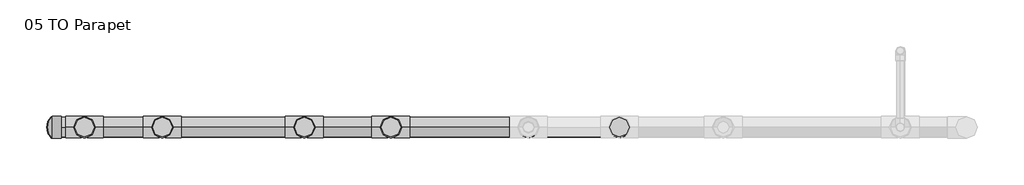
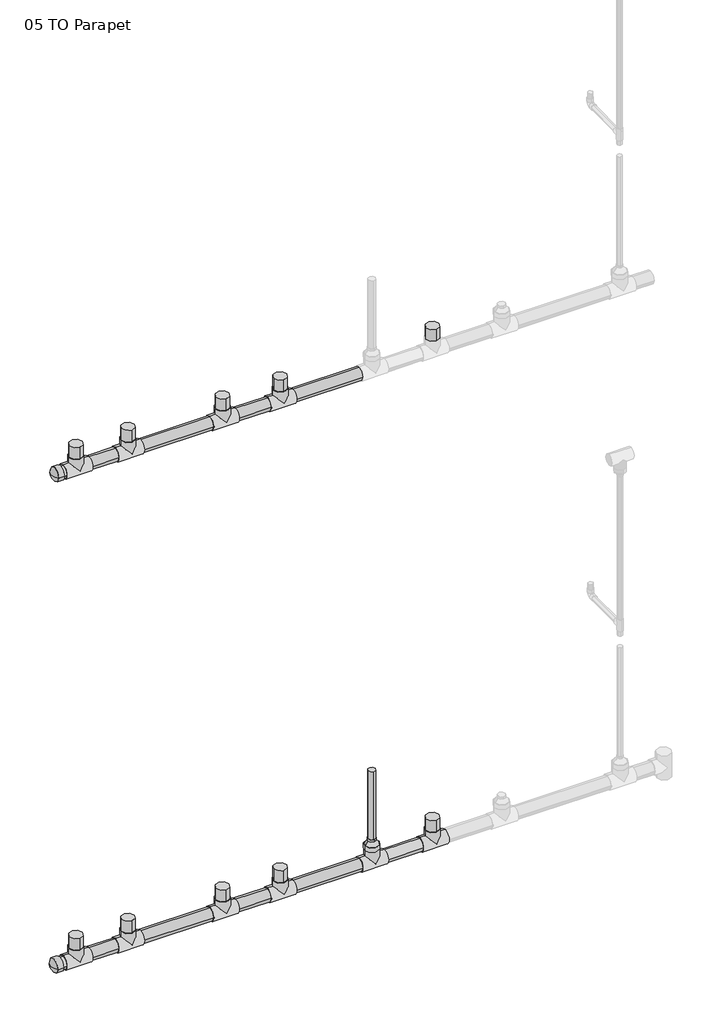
# One storey, part 1 of 2: 22 pipe segments, 13 pipe fittings.
"""IFC4 building model written with IfcOpenShell, lengths in millimetres."""

from ifc_helpers import new_model, si_unit, point, frame, frame_2d, origin, place, context, project, spatial, circle_curve, trimmed, segment, composite_curve, outline, extrude, transform, mapped, element, save
from components import cap_pvc_sch_40_standard_fd01d818, reducer_pvc_sch_40_dwv_standard_07db09cb, tee_pvc_sch_40_standard_5c3f4d2b

model = new_model("IFC4")

# Units and contexts
model_context = context("Model", 3, world=origin())
ifc_project = project(units=[si_unit("LENGTHUNIT", "METRE", prefix="MILLI")], contexts=[model_context])

# Site, building, storey
site = spatial("IfcSite", under=ifc_project)
building = spatial("IfcBuilding", under=site)
storey = spatial("IfcBuildingStorey", under=building, Name="05 TO Parapet", Elevation=15240.0)

# Pipe fittings
placement = place(None, origin())
cap_pvc_sch_40_standard_shape = cap_pvc_sch_40_standard_fd01d818(model_context)
element("IfcPipeFitting", 1, ObjectType="Cap - PVC - Sch 40 : Standard", at=placement, inside=storey, context=model_context, shape_type="MappedRepresentation", body=[
    mapped(cap_pvc_sch_40_standard_shape, transform((-17561.5436686, -4439.7857603, 3739.8806513), x_axis=(-1.0, 0.0, 0.0), y_axis=(0.0, -1.0, 0.0), z_axis=(0.0, 0.0, 1.0))),
])
element("IfcPipeFitting", 2, ObjectType="Cap - PVC - Sch 40 : Standard", at=placement, inside=storey, context=model_context, shape_type="MappedRepresentation", body=[
    mapped(cap_pvc_sch_40_standard_shape, transform((-17555.1936686, -4439.7857603, 8311.8806513), x_axis=(-1.0, 0.0, 0.0), y_axis=(0.0, -1.0, 0.0), z_axis=(0.0, 0.0, 1.0))),
])
reducer_pvc_sch_40_dwv_standard_shape = reducer_pvc_sch_40_dwv_standard_07db09cb(model_context)
element("IfcPipeFitting", 3, ObjectType="Reducer - PVC - Sch 40 - DWV : Standard", at=placement, inside=storey, context=model_context, shape_type="MappedRepresentation", body=[
    mapped(reducer_pvc_sch_40_dwv_standard_shape, transform((-14812.7542617, -4439.7857603, 3851.0056513), x_axis=(0.0, 0.0, 1.0), y_axis=(1.0, 0.0, 0.0), z_axis=(0.0, 1.0, 0.0))),
])
tee_pvc_sch_40_standard_shape = tee_pvc_sch_40_standard_5c3f4d2b(model_context)
element("IfcPipeFitting", 4, ObjectType="Tee - PVC - Sch 40 : Standard", at=placement, inside=storey, context=model_context, shape_type="MappedRepresentation", body=[
    mapped(tee_pvc_sch_40_standard_shape, transform((-17418.6686686, -4439.7857603, 3739.8806513), x_axis=(-1.0, 0.0, 0.0), y_axis=(0.0, 0.0, -1.0), z_axis=(0.0, -1.0, 0.0))),
])
element("IfcPipeFitting", 5, ObjectType="Tee - PVC - Sch 40 : Standard", at=placement, inside=storey, context=model_context, shape_type="MappedRepresentation", body=[
    mapped(tee_pvc_sch_40_standard_shape, transform((-16128.0974824, -4439.7857603, 3739.8806513), x_axis=(-1.0, 0.0, 0.0), y_axis=(0.0, 0.0, -1.0), z_axis=(0.0, -1.0, 0.0))),
])
element("IfcPipeFitting", 6, ObjectType="Tee - PVC - Sch 40 : Standard", at=placement, inside=storey, context=model_context, shape_type="MappedRepresentation", body=[
    mapped(tee_pvc_sch_40_standard_shape, transform((-16961.4686686, -4439.7857603, 3739.8806513), x_axis=(-1.0, 0.0, 0.0), y_axis=(0.0, 0.0, -1.0), z_axis=(0.0, -1.0, 0.0))),
])
element("IfcPipeFitting", 7, ObjectType="Tee - PVC - Sch 40 : Standard", at=placement, inside=storey, context=model_context, shape_type="MappedRepresentation", body=[
    mapped(tee_pvc_sch_40_standard_shape, transform((-15620.0974824, -4439.7857603, 3739.8806513), x_axis=(-1.0, 0.0, 0.0), y_axis=(0.0, 0.0, -1.0), z_axis=(0.0, -1.0, 0.0))),
])
element("IfcPipeFitting", 8, ObjectType="Tee - PVC - Sch 40 : Standard", at=placement, inside=storey, context=model_context, shape_type="MappedRepresentation", body=[
    mapped(tee_pvc_sch_40_standard_shape, transform((-14278.7262962, -4439.7857603, 3739.8806513), x_axis=(-1.0, 0.0, 0.0), y_axis=(0.0, 0.0, -1.0), z_axis=(0.0, -1.0, 0.0))),
])
element("IfcPipeFitting", 9, ObjectType="Tee - PVC - Sch 40 : Standard", at=placement, inside=storey, context=model_context, shape_type="MappedRepresentation", body=[
    mapped(tee_pvc_sch_40_standard_shape, transform((-14812.7542617, -4439.7857603, 3739.8806513), x_axis=(-1.0, 0.0, 0.0), y_axis=(0.0, 0.0, -1.0), z_axis=(0.0, -1.0, 0.0))),
])
element("IfcPipeFitting", 10, ObjectType="Tee - PVC - Sch 40 : Standard", at=placement, inside=storey, context=model_context, shape_type="MappedRepresentation", body=[
    mapped(tee_pvc_sch_40_standard_shape, transform((-17418.6686686, -4439.7857603, 8311.8806513), x_axis=(-1.0, 0.0, 0.0), y_axis=(0.0, 0.0, -1.0), z_axis=(0.0, -1.0, 0.0))),
])
element("IfcPipeFitting", 11, ObjectType="Tee - PVC - Sch 40 : Standard", at=placement, inside=storey, context=model_context, shape_type="MappedRepresentation", body=[
    mapped(tee_pvc_sch_40_standard_shape, transform((-16128.0974824, -4439.7857603, 8311.8806513), x_axis=(-1.0, 0.0, 0.0), y_axis=(0.0, 0.0, -1.0), z_axis=(0.0, -1.0, 0.0))),
])
element("IfcPipeFitting", 12, ObjectType="Tee - PVC - Sch 40 : Standard", at=placement, inside=storey, context=model_context, shape_type="MappedRepresentation", body=[
    mapped(tee_pvc_sch_40_standard_shape, transform((-16961.4686686, -4439.7857603, 8311.8806513), x_axis=(-1.0, 0.0, 0.0), y_axis=(0.0, 0.0, -1.0), z_axis=(0.0, -1.0, 0.0))),
])
element("IfcPipeFitting", 13, ObjectType="Tee - PVC - Sch 40 : Standard", at=placement, inside=storey, context=model_context, shape_type="MappedRepresentation", body=[
    mapped(tee_pvc_sch_40_standard_shape, transform((-15620.0974824, -4439.7857603, 8311.8806513), x_axis=(-1.0, 0.0, 0.0), y_axis=(0.0, 0.0, -1.0), z_axis=(0.0, -1.0, 0.0))),
])

# Pipe segments
element("IfcPipeSegment", 14, ObjectType="Standard", at=placement, inside=storey, context=model_context, shape_type="SweptSolid", body=[
    extrude(outline(composite_curve([segment(trimmed(circle_curve(frame_2d((-17418.6686686, -4439.7857603)), 57.15), [point((-17475.8186686, -4439.7857603))], [point((-17418.6686686, -4382.6357603))], False, "CARTESIAN"), True, "CONTINUOUS"), segment(trimmed(circle_curve(frame_2d((-17418.6686686, -4439.7857603)), 57.15), [point((-17418.6686686, -4382.6357603))], [point((-17361.5186686, -4439.7857603))], False, "CARTESIAN"), True, "CONTINUOUS"), segment(trimmed(circle_curve(frame_2d((-17418.6686686, -4439.7857603)), 57.15), [point((-17361.5186686, -4439.7857603))], [point((-17418.6686686, -4496.9357603))], False, "CARTESIAN"), True, "CONTINUOUS"), segment(trimmed(circle_curve(frame_2d((-17418.6686686, -4439.7857603)), 57.15), [point((-17418.6686686, -4496.9357603))], [point((-17475.8186686, -4439.7857603))], False, "CARTESIAN"), True, "CONTINUOUS")], self_intersect=False)), frame((0.0, 0.0, 3851.0056513), z_axis=(0.0, 0.0, 1.0), x_axis=(1.0, 0.0, 0.0)), (0.0, 0.0, 1.0), 109.5106552),
])
element("IfcPipeSegment", 15, ObjectType="Standard", at=placement, inside=storey, context=model_context, shape_type="SweptSolid", body=[
    extrude(outline(composite_curve([segment(trimmed(circle_curve(frame_2d((0.0, -57.15)), 57.15), [point((-57.15, -57.15))], [point((0.0, 0.0))], False, "CARTESIAN"), True, "CONTINUOUS"), segment(trimmed(circle_curve(frame_2d((0.0, -57.15)), 57.15), [point((0.0, 0.0))], [point((57.15, -57.15))], False, "CARTESIAN"), True, "CONTINUOUS"), segment(trimmed(circle_curve(frame_2d((0.0, -57.15)), 57.15), [point((57.15, -57.15))], [point((0.0, -114.3))], False, "CARTESIAN"), True, "CONTINUOUS"), segment(trimmed(circle_curve(frame_2d((0.0, -57.15)), 57.15), [point((0.0, -114.3))], [point((-57.15, -57.15))], False, "CARTESIAN"), True, "CONTINUOUS")], self_intersect=False)), frame((-17561.5436686, -4439.7857603, 3682.7306513), z_axis=(1.0, 1.6555645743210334e-12, 0.0), x_axis=(1.6555645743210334e-12, -1.0, 0.0)), (0.0, 0.0, 1.0), 31.75),
])
element("IfcPipeSegment", 16, ObjectType="Standard", at=placement, inside=storey, context=model_context, shape_type="SweptSolid", body=[
    extrude(outline(composite_curve([segment(trimmed(circle_curve(frame_2d((-16128.0974824, -4439.7857603)), 57.15), [point((-16185.2474824, -4439.7857603))], [point((-16128.0974824, -4382.6357603))], False, "CARTESIAN"), True, "CONTINUOUS"), segment(trimmed(circle_curve(frame_2d((-16128.0974824, -4439.7857603)), 57.15), [point((-16128.0974824, -4382.6357603))], [point((-16070.9474824, -4439.7857603))], False, "CARTESIAN"), True, "CONTINUOUS"), segment(trimmed(circle_curve(frame_2d((-16128.0974824, -4439.7857603)), 57.15), [point((-16070.9474824, -4439.7857603))], [point((-16128.0974824, -4496.9357603))], False, "CARTESIAN"), True, "CONTINUOUS"), segment(trimmed(circle_curve(frame_2d((-16128.0974824, -4439.7857603)), 57.15), [point((-16128.0974824, -4496.9357603))], [point((-16185.2474824, -4439.7857603))], False, "CARTESIAN"), True, "CONTINUOUS")], self_intersect=False)), frame((0.0, 0.0, 3851.0056513), z_axis=(0.0, 0.0, 1.0), x_axis=(1.0, 0.0, 0.0)), (0.0, 0.0, 1.0), 109.5106552),
])
element("IfcPipeSegment", 17, ObjectType="Standard", at=placement, inside=storey, context=model_context, shape_type="SweptSolid", body=[
    extrude(outline(composite_curve([segment(trimmed(circle_curve(frame_2d((-4439.7857603, 3739.8806513)), 57.15), [point((-4496.9357603, 3739.8806513))], [point((-4439.7857603, 3797.0306513))], False, "CARTESIAN"), True, "CONTINUOUS"), segment(trimmed(circle_curve(frame_2d((-4439.7857603, 3739.8806513)), 57.15), [point((-4439.7857603, 3797.0306513))], [point((-4382.6357603, 3739.8806513))], False, "CARTESIAN"), True, "CONTINUOUS"), segment(trimmed(circle_curve(frame_2d((-4439.7857603, 3739.8806513)), 57.15), [point((-4382.6357603, 3739.8806513))], [point((-4439.7857603, 3682.7306513))], False, "CARTESIAN"), True, "CONTINUOUS"), segment(trimmed(circle_curve(frame_2d((-4439.7857603, 3739.8806513)), 57.15), [point((-4439.7857603, 3682.7306513))], [point((-4496.9357603, 3739.8806513))], False, "CARTESIAN"), True, "CONTINUOUS")], self_intersect=False)), frame((-16850.3436686, 0.0, 0.0), z_axis=(1.0, 0.0, 0.0), x_axis=(0.0, 1.0, 0.0)), (0.0, 0.0, 1.0), 611.1211862),
])
element("IfcPipeSegment", 18, ObjectType="Standard", at=placement, inside=storey, context=model_context, shape_type="SweptSolid", body=[
    extrude(outline(composite_curve([segment(trimmed(circle_curve(frame_2d((-16961.4686686, -4439.7857603)), 57.15), [point((-17018.6186686, -4439.7857603))], [point((-16961.4686686, -4382.6357603))], False, "CARTESIAN"), True, "CONTINUOUS"), segment(trimmed(circle_curve(frame_2d((-16961.4686686, -4439.7857603)), 57.15), [point((-16961.4686686, -4382.6357603))], [point((-16904.3186686, -4439.7857603))], False, "CARTESIAN"), True, "CONTINUOUS"), segment(trimmed(circle_curve(frame_2d((-16961.4686686, -4439.7857603)), 57.15), [point((-16904.3186686, -4439.7857603))], [point((-16961.4686686, -4496.9357603))], False, "CARTESIAN"), True, "CONTINUOUS"), segment(trimmed(circle_curve(frame_2d((-16961.4686686, -4439.7857603)), 57.15), [point((-16961.4686686, -4496.9357603))], [point((-17018.6186686, -4439.7857603))], False, "CARTESIAN"), True, "CONTINUOUS")], self_intersect=False)), frame((0.0, 0.0, 3851.0056513), z_axis=(0.0, 0.0, 1.0), x_axis=(1.0, 0.0, 0.0)), (0.0, 0.0, 1.0), 109.3423651),
])
element("IfcPipeSegment", 19, ObjectType="Standard", at=placement, inside=storey, context=model_context, shape_type="SweptSolid", body=[
    extrude(outline(composite_curve([segment(trimmed(circle_curve(frame_2d((-4439.7857603, 3739.8806513)), 57.15), [point((-4496.9357603, 3739.8806513))], [point((-4439.7857603, 3797.0306513))], False, "CARTESIAN"), True, "CONTINUOUS"), segment(trimmed(circle_curve(frame_2d((-4439.7857603, 3739.8806513)), 57.15), [point((-4439.7857603, 3797.0306513))], [point((-4382.6357603, 3739.8806513))], False, "CARTESIAN"), True, "CONTINUOUS"), segment(trimmed(circle_curve(frame_2d((-4439.7857603, 3739.8806513)), 57.15), [point((-4382.6357603, 3739.8806513))], [point((-4439.7857603, 3682.7306513))], False, "CARTESIAN"), True, "CONTINUOUS"), segment(trimmed(circle_curve(frame_2d((-4439.7857603, 3739.8806513)), 57.15), [point((-4439.7857603, 3682.7306513))], [point((-4496.9357603, 3739.8806513))], False, "CARTESIAN"), True, "CONTINUOUS")], self_intersect=False)), frame((-17307.5436686, 0.0, 0.0), z_axis=(1.0, 0.0, 0.0), x_axis=(0.0, 1.0, 0.0)), (0.0, 0.0, 1.0), 234.95),
])
element("IfcPipeSegment", 20, ObjectType="Standard", at=placement, inside=storey, context=model_context, shape_type="SweptSolid", body=[
    extrude(outline(composite_curve([segment(trimmed(circle_curve(frame_2d((-15620.0974824, -4439.7857603)), 57.15), [point((-15677.2474824, -4439.7857603))], [point((-15620.0974824, -4382.6357603))], False, "CARTESIAN"), True, "CONTINUOUS"), segment(trimmed(circle_curve(frame_2d((-15620.0974824, -4439.7857603)), 57.15), [point((-15620.0974824, -4382.6357603))], [point((-15562.9474824, -4439.7857603))], False, "CARTESIAN"), True, "CONTINUOUS"), segment(trimmed(circle_curve(frame_2d((-15620.0974824, -4439.7857603)), 57.15), [point((-15562.9474824, -4439.7857603))], [point((-15620.0974824, -4496.9357603))], False, "CARTESIAN"), True, "CONTINUOUS"), segment(trimmed(circle_curve(frame_2d((-15620.0974824, -4439.7857603)), 57.15), [point((-15620.0974824, -4496.9357603))], [point((-15677.2474824, -4439.7857603))], False, "CARTESIAN"), True, "CONTINUOUS")], self_intersect=False)), frame((0.0, 0.0, 3851.0056513), z_axis=(0.0, 0.0, 1.0), x_axis=(1.0, 0.0, 0.0)), (0.0, 0.0, 1.0), 109.3423651),
])
element("IfcPipeSegment", 21, ObjectType="Standard", at=placement, inside=storey, context=model_context, shape_type="SweptSolid", body=[
    extrude(outline(composite_curve([segment(trimmed(circle_curve(frame_2d((-4439.7857603, 3739.8806513)), 57.15), [point((-4496.9357603, 3739.8806513))], [point((-4439.7857603, 3797.0306513))], False, "CARTESIAN"), True, "CONTINUOUS"), segment(trimmed(circle_curve(frame_2d((-4439.7857603, 3739.8806513)), 57.15), [point((-4439.7857603, 3797.0306513))], [point((-4382.6357603, 3739.8806513))], False, "CARTESIAN"), True, "CONTINUOUS"), segment(trimmed(circle_curve(frame_2d((-4439.7857603, 3739.8806513)), 57.15), [point((-4382.6357603, 3739.8806513))], [point((-4439.7857603, 3682.7306513))], False, "CARTESIAN"), True, "CONTINUOUS"), segment(trimmed(circle_curve(frame_2d((-4439.7857603, 3739.8806513)), 57.15), [point((-4439.7857603, 3682.7306513))], [point((-4496.9357603, 3739.8806513))], False, "CARTESIAN"), True, "CONTINUOUS")], self_intersect=False)), frame((-16016.9724824, 0.0, 0.0), z_axis=(1.0, 0.0, 0.0), x_axis=(0.0, 1.0, 0.0)), (0.0, 0.0, 1.0), 285.75),
])
element("IfcPipeSegment", 22, ObjectType="Standard", at=placement, inside=storey, context=model_context, shape_type="SweptSolid", body=[
    extrude(outline(composite_curve([segment(trimmed(circle_curve(frame_2d((-14278.7262962, -4439.7857603)), 57.15), [point((-14335.8762962, -4439.7857603))], [point((-14278.7262962, -4382.6357603))], False, "CARTESIAN"), True, "CONTINUOUS"), segment(trimmed(circle_curve(frame_2d((-14278.7262962, -4439.7857603)), 57.15), [point((-14278.7262962, -4382.6357603))], [point((-14221.5762962, -4439.7857603))], False, "CARTESIAN"), True, "CONTINUOUS"), segment(trimmed(circle_curve(frame_2d((-14278.7262962, -4439.7857603)), 57.15), [point((-14221.5762962, -4439.7857603))], [point((-14278.7262962, -4496.9357603))], False, "CARTESIAN"), True, "CONTINUOUS"), segment(trimmed(circle_curve(frame_2d((-14278.7262962, -4439.7857603)), 57.15), [point((-14278.7262962, -4496.9357603))], [point((-14335.8762962, -4439.7857603))], False, "CARTESIAN"), True, "CONTINUOUS")], self_intersect=False)), frame((0.0, 0.0, 3851.0056513), z_axis=(0.0, 0.0, 1.0), x_axis=(1.0, 0.0, 0.0)), (0.0, 0.0, 1.0), 109.3423651),
])
element("IfcPipeSegment", 23, ObjectType="Standard", at=placement, inside=storey, context=model_context, shape_type="SweptSolid", body=[
    extrude(outline(composite_curve([segment(trimmed(circle_curve(frame_2d((-4439.7857603, 3739.8806513)), 57.15), [point((-4382.6357603, 3739.8806513))], [point((-4439.7857603, 3682.7306513))], False, "CARTESIAN"), True, "CONTINUOUS"), segment(trimmed(circle_curve(frame_2d((-4439.7857603, 3739.8806513)), 57.15), [point((-4439.7857603, 3682.7306513))], [point((-4496.9357603, 3739.8806513))], False, "CARTESIAN"), True, "CONTINUOUS"), segment(trimmed(circle_curve(frame_2d((-4439.7857603, 3739.8806513)), 57.15), [point((-4496.9357603, 3739.8806513))], [point((-4439.7857603, 3797.0306513))], False, "CARTESIAN"), True, "CONTINUOUS"), segment(trimmed(circle_curve(frame_2d((-4439.7857603, 3739.8806513)), 57.15), [point((-4439.7857603, 3797.0306513))], [point((-4382.6357603, 3739.8806513))], False, "CARTESIAN"), True, "CONTINUOUS")], self_intersect=False)), frame((-14701.6292617, 0.0, 0.0), z_axis=(1.0, 0.0, 0.0), x_axis=(0.0, 1.0, 0.0)), (0.0, 0.0, 1.0), 311.7779655),
])
element("IfcPipeSegment", 24, ObjectType="Standard", at=placement, inside=storey, context=model_context, shape_type="SweptSolid", body=[
    extrude(outline(composite_curve([segment(trimmed(circle_curve(frame_2d((-14812.7542617, -4439.7857603)), 30.1625), [point((-14842.9167617, -4439.7857603))], [point((-14812.7542617, -4409.6232603))], False, "CARTESIAN"), True, "CONTINUOUS"), segment(trimmed(circle_curve(frame_2d((-14812.7542617, -4439.7857603)), 30.1625), [point((-14812.7542617, -4409.6232603))], [point((-14782.5917617, -4439.7857603))], False, "CARTESIAN"), True, "CONTINUOUS"), segment(trimmed(circle_curve(frame_2d((-14812.7542617, -4439.7857603)), 30.1625), [point((-14782.5917617, -4439.7857603))], [point((-14812.7542617, -4469.9482603))], False, "CARTESIAN"), True, "CONTINUOUS"), segment(trimmed(circle_curve(frame_2d((-14812.7542617, -4439.7857603)), 30.1625), [point((-14812.7542617, -4469.9482603))], [point((-14842.9167617, -4439.7857603))], False, "CARTESIAN"), True, "CONTINUOUS")], self_intersect=False)), frame((0.0, 0.0, 3949.4306513), z_axis=(0.0, 0.0, 1.0), x_axis=(1.0, 0.0, 0.0)), (0.0, 0.0, 1.0), 634.2992946),
])
element("IfcPipeSegment", 25, ObjectType="Standard", at=placement, inside=storey, context=model_context, shape_type="SweptSolid", body=[
    extrude(outline(composite_curve([segment(trimmed(circle_curve(frame_2d((-4439.7857603, 3739.8806513)), 57.15), [point((-4496.9357603, 3739.8806513))], [point((-4439.7857603, 3797.0306513))], False, "CARTESIAN"), True, "CONTINUOUS"), segment(trimmed(circle_curve(frame_2d((-4439.7857603, 3739.8806513)), 57.15), [point((-4439.7857603, 3797.0306513))], [point((-4382.6357603, 3739.8806513))], False, "CARTESIAN"), True, "CONTINUOUS"), segment(trimmed(circle_curve(frame_2d((-4439.7857603, 3739.8806513)), 57.15), [point((-4382.6357603, 3739.8806513))], [point((-4439.7857603, 3682.7306513))], False, "CARTESIAN"), True, "CONTINUOUS"), segment(trimmed(circle_curve(frame_2d((-4439.7857603, 3739.8806513)), 57.15), [point((-4439.7857603, 3682.7306513))], [point((-4496.9357603, 3739.8806513))], False, "CARTESIAN"), True, "CONTINUOUS")], self_intersect=False)), frame((-15508.9724824, 0.0, 0.0), z_axis=(1.0, 0.0, 0.0), x_axis=(0.0, 1.0, 0.0)), (0.0, 0.0, 1.0), 585.0932207),
])
element("IfcPipeSegment", 26, ObjectType="Standard", at=placement, inside=storey, context=model_context, shape_type="SweptSolid", body=[
    extrude(outline(composite_curve([segment(trimmed(circle_curve(frame_2d((-17418.6686686, -4439.7857603)), 57.15), [point((-17475.8186686, -4439.7857603))], [point((-17418.6686686, -4382.6357603))], False, "CARTESIAN"), True, "CONTINUOUS"), segment(trimmed(circle_curve(frame_2d((-17418.6686686, -4439.7857603)), 57.15), [point((-17418.6686686, -4382.6357603))], [point((-17361.5186686, -4439.7857603))], False, "CARTESIAN"), True, "CONTINUOUS"), segment(trimmed(circle_curve(frame_2d((-17418.6686686, -4439.7857603)), 57.15), [point((-17361.5186686, -4439.7857603))], [point((-17418.6686686, -4496.9357603))], False, "CARTESIAN"), True, "CONTINUOUS"), segment(trimmed(circle_curve(frame_2d((-17418.6686686, -4439.7857603)), 57.15), [point((-17418.6686686, -4496.9357603))], [point((-17475.8186686, -4439.7857603))], False, "CARTESIAN"), True, "CONTINUOUS")], self_intersect=False)), frame((0.0, 0.0, 8423.0056513), z_axis=(0.0, 0.0, 1.0), x_axis=(1.0, 0.0, 0.0)), (0.0, 0.0, 1.0), 109.5106552),
])
element("IfcPipeSegment", 27, ObjectType="Standard", at=placement, inside=storey, context=model_context, shape_type="SweptSolid", body=[
    extrude(outline(composite_curve([segment(trimmed(circle_curve(frame_2d((0.0, -57.15)), 57.15), [point((-57.15, -57.15))], [point((0.0, 0.0))], False, "CARTESIAN"), True, "CONTINUOUS"), segment(trimmed(circle_curve(frame_2d((0.0, -57.15)), 57.15), [point((0.0, 0.0))], [point((57.15, -57.15))], False, "CARTESIAN"), True, "CONTINUOUS"), segment(trimmed(circle_curve(frame_2d((0.0, -57.15)), 57.15), [point((57.15, -57.15))], [point((0.0, -114.3))], False, "CARTESIAN"), True, "CONTINUOUS"), segment(trimmed(circle_curve(frame_2d((0.0, -57.15)), 57.15), [point((0.0, -114.3))], [point((-57.15, -57.15))], False, "CARTESIAN"), True, "CONTINUOUS")], self_intersect=False)), frame((-17555.1936686, -4439.7857603, 8254.7306513), z_axis=(1.0, 2.0676793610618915e-12, 0.0), x_axis=(2.0676793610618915e-12, -1.0, 0.0)), (0.0, 0.0, 1.0), 25.4),
])
element("IfcPipeSegment", 28, ObjectType="Standard", at=placement, inside=storey, context=model_context, shape_type="SweptSolid", body=[
    extrude(outline(composite_curve([segment(trimmed(circle_curve(frame_2d((-16128.0974824, -4439.7857603)), 57.15), [point((-16185.2474824, -4439.7857603))], [point((-16128.0974824, -4382.6357603))], False, "CARTESIAN"), True, "CONTINUOUS"), segment(trimmed(circle_curve(frame_2d((-16128.0974824, -4439.7857603)), 57.15), [point((-16128.0974824, -4382.6357603))], [point((-16070.9474824, -4439.7857603))], False, "CARTESIAN"), True, "CONTINUOUS"), segment(trimmed(circle_curve(frame_2d((-16128.0974824, -4439.7857603)), 57.15), [point((-16070.9474824, -4439.7857603))], [point((-16128.0974824, -4496.9357603))], False, "CARTESIAN"), True, "CONTINUOUS"), segment(trimmed(circle_curve(frame_2d((-16128.0974824, -4439.7857603)), 57.15), [point((-16128.0974824, -4496.9357603))], [point((-16185.2474824, -4439.7857603))], False, "CARTESIAN"), True, "CONTINUOUS")], self_intersect=False)), frame((0.0, 0.0, 8423.0056513), z_axis=(0.0, 0.0, 1.0), x_axis=(1.0, 0.0, 0.0)), (0.0, 0.0, 1.0), 109.5106552),
])
element("IfcPipeSegment", 29, ObjectType="Standard", at=placement, inside=storey, context=model_context, shape_type="SweptSolid", body=[
    extrude(outline(composite_curve([segment(trimmed(circle_curve(frame_2d((-4439.7857603, 8311.8806513)), 57.15), [point((-4496.9357603, 8311.8806513))], [point((-4439.7857603, 8369.0306513))], False, "CARTESIAN"), True, "CONTINUOUS"), segment(trimmed(circle_curve(frame_2d((-4439.7857603, 8311.8806513)), 57.15), [point((-4439.7857603, 8369.0306513))], [point((-4382.6357603, 8311.8806513))], False, "CARTESIAN"), True, "CONTINUOUS"), segment(trimmed(circle_curve(frame_2d((-4439.7857603, 8311.8806513)), 57.15), [point((-4382.6357603, 8311.8806513))], [point((-4439.7857603, 8254.7306513))], False, "CARTESIAN"), True, "CONTINUOUS"), segment(trimmed(circle_curve(frame_2d((-4439.7857603, 8311.8806513)), 57.15), [point((-4439.7857603, 8254.7306513))], [point((-4496.9357603, 8311.8806513))], False, "CARTESIAN"), True, "CONTINUOUS")], self_intersect=False)), frame((-16850.3436686, 0.0, 0.0), z_axis=(1.0, 0.0, 0.0), x_axis=(0.0, 1.0, 0.0)), (0.0, 0.0, 1.0), 611.1211862),
])
element("IfcPipeSegment", 30, ObjectType="Standard", at=placement, inside=storey, context=model_context, shape_type="SweptSolid", body=[
    extrude(outline(composite_curve([segment(trimmed(circle_curve(frame_2d((-16961.4686686, -4439.7857603)), 57.15), [point((-17018.6186686, -4439.7857603))], [point((-16961.4686686, -4382.6357603))], False, "CARTESIAN"), True, "CONTINUOUS"), segment(trimmed(circle_curve(frame_2d((-16961.4686686, -4439.7857603)), 57.15), [point((-16961.4686686, -4382.6357603))], [point((-16904.3186686, -4439.7857603))], False, "CARTESIAN"), True, "CONTINUOUS"), segment(trimmed(circle_curve(frame_2d((-16961.4686686, -4439.7857603)), 57.15), [point((-16904.3186686, -4439.7857603))], [point((-16961.4686686, -4496.9357603))], False, "CARTESIAN"), True, "CONTINUOUS"), segment(trimmed(circle_curve(frame_2d((-16961.4686686, -4439.7857603)), 57.15), [point((-16961.4686686, -4496.9357603))], [point((-17018.6186686, -4439.7857603))], False, "CARTESIAN"), True, "CONTINUOUS")], self_intersect=False)), frame((0.0, 0.0, 8423.0056513), z_axis=(0.0, 0.0, 1.0), x_axis=(1.0, 0.0, 0.0)), (0.0, 0.0, 1.0), 109.3423651),
])
element("IfcPipeSegment", 31, ObjectType="Standard", at=placement, inside=storey, context=model_context, shape_type="SweptSolid", body=[
    extrude(outline(composite_curve([segment(trimmed(circle_curve(frame_2d((-4439.7857603, 8311.8806513)), 57.15), [point((-4496.9357603, 8311.8806513))], [point((-4439.7857603, 8369.0306513))], False, "CARTESIAN"), True, "CONTINUOUS"), segment(trimmed(circle_curve(frame_2d((-4439.7857603, 8311.8806513)), 57.15), [point((-4439.7857603, 8369.0306513))], [point((-4382.6357603, 8311.8806513))], False, "CARTESIAN"), True, "CONTINUOUS"), segment(trimmed(circle_curve(frame_2d((-4439.7857603, 8311.8806513)), 57.15), [point((-4382.6357603, 8311.8806513))], [point((-4439.7857603, 8254.7306513))], False, "CARTESIAN"), True, "CONTINUOUS"), segment(trimmed(circle_curve(frame_2d((-4439.7857603, 8311.8806513)), 57.15), [point((-4439.7857603, 8254.7306513))], [point((-4496.9357603, 8311.8806513))], False, "CARTESIAN"), True, "CONTINUOUS")], self_intersect=False)), frame((-17307.5436686, 0.0, 0.0), z_axis=(1.0, 0.0, 0.0), x_axis=(0.0, 1.0, 0.0)), (0.0, 0.0, 1.0), 234.95),
])
element("IfcPipeSegment", 32, ObjectType="Standard", at=placement, inside=storey, context=model_context, shape_type="SweptSolid", body=[
    extrude(outline(composite_curve([segment(trimmed(circle_curve(frame_2d((-15620.0974824, -4439.7857603)), 57.15), [point((-15677.2474824, -4439.7857603))], [point((-15620.0974824, -4382.6357603))], False, "CARTESIAN"), True, "CONTINUOUS"), segment(trimmed(circle_curve(frame_2d((-15620.0974824, -4439.7857603)), 57.15), [point((-15620.0974824, -4382.6357603))], [point((-15562.9474824, -4439.7857603))], False, "CARTESIAN"), True, "CONTINUOUS"), segment(trimmed(circle_curve(frame_2d((-15620.0974824, -4439.7857603)), 57.15), [point((-15562.9474824, -4439.7857603))], [point((-15620.0974824, -4496.9357603))], False, "CARTESIAN"), True, "CONTINUOUS"), segment(trimmed(circle_curve(frame_2d((-15620.0974824, -4439.7857603)), 57.15), [point((-15620.0974824, -4496.9357603))], [point((-15677.2474824, -4439.7857603))], False, "CARTESIAN"), True, "CONTINUOUS")], self_intersect=False)), frame((0.0, 0.0, 8423.0056513), z_axis=(0.0, 0.0, 1.0), x_axis=(1.0, 0.0, 0.0)), (0.0, 0.0, 1.0), 109.3423651),
])
element("IfcPipeSegment", 33, ObjectType="Standard", at=placement, inside=storey, context=model_context, shape_type="SweptSolid", body=[
    extrude(outline(composite_curve([segment(trimmed(circle_curve(frame_2d((-4439.7857603, 8311.8806513)), 57.15), [point((-4496.9357603, 8311.8806513))], [point((-4439.7857603, 8369.0306513))], False, "CARTESIAN"), True, "CONTINUOUS"), segment(trimmed(circle_curve(frame_2d((-4439.7857603, 8311.8806513)), 57.15), [point((-4439.7857603, 8369.0306513))], [point((-4382.6357603, 8311.8806513))], False, "CARTESIAN"), True, "CONTINUOUS"), segment(trimmed(circle_curve(frame_2d((-4439.7857603, 8311.8806513)), 57.15), [point((-4382.6357603, 8311.8806513))], [point((-4439.7857603, 8254.7306513))], False, "CARTESIAN"), True, "CONTINUOUS"), segment(trimmed(circle_curve(frame_2d((-4439.7857603, 8311.8806513)), 57.15), [point((-4439.7857603, 8254.7306513))], [point((-4496.9357603, 8311.8806513))], False, "CARTESIAN"), True, "CONTINUOUS")], self_intersect=False)), frame((-16016.9724824, 0.0, 0.0), z_axis=(1.0, 0.0, 0.0), x_axis=(0.0, 1.0, 0.0)), (0.0, 0.0, 1.0), 285.75),
])
element("IfcPipeSegment", 34, ObjectType="Standard", at=placement, inside=storey, context=model_context, shape_type="SweptSolid", body=[
    extrude(outline(composite_curve([segment(trimmed(circle_curve(frame_2d((-14278.7262962, -4439.7857603)), 57.15), [point((-14335.8762962, -4439.7857603))], [point((-14278.7262962, -4382.6357603))], False, "CARTESIAN"), True, "CONTINUOUS"), segment(trimmed(circle_curve(frame_2d((-14278.7262962, -4439.7857603)), 57.15), [point((-14278.7262962, -4382.6357603))], [point((-14221.5762962, -4439.7857603))], False, "CARTESIAN"), True, "CONTINUOUS"), segment(trimmed(circle_curve(frame_2d((-14278.7262962, -4439.7857603)), 57.15), [point((-14221.5762962, -4439.7857603))], [point((-14278.7262962, -4496.9357603))], False, "CARTESIAN"), True, "CONTINUOUS"), segment(trimmed(circle_curve(frame_2d((-14278.7262962, -4439.7857603)), 57.15), [point((-14278.7262962, -4496.9357603))], [point((-14335.8762962, -4439.7857603))], False, "CARTESIAN"), True, "CONTINUOUS")], self_intersect=False)), frame((0.0, 0.0, 8423.0056513), z_axis=(0.0, 0.0, 1.0), x_axis=(1.0, 0.0, 0.0)), (0.0, 0.0, 1.0), 109.3423651),
])
element("IfcPipeSegment", 35, ObjectType="Standard", at=placement, inside=storey, context=model_context, shape_type="SweptSolid", body=[
    extrude(outline(composite_curve([segment(trimmed(circle_curve(frame_2d((-4439.7857603, 8311.8806513)), 57.15), [point((-4496.9357603, 8311.8806513))], [point((-4439.7857603, 8369.0306513))], False, "CARTESIAN"), True, "CONTINUOUS"), segment(trimmed(circle_curve(frame_2d((-4439.7857603, 8311.8806513)), 57.15), [point((-4439.7857603, 8369.0306513))], [point((-4382.6357603, 8311.8806513))], False, "CARTESIAN"), True, "CONTINUOUS"), segment(trimmed(circle_curve(frame_2d((-4439.7857603, 8311.8806513)), 57.15), [point((-4382.6357603, 8311.8806513))], [point((-4439.7857603, 8254.7306513))], False, "CARTESIAN"), True, "CONTINUOUS"), segment(trimmed(circle_curve(frame_2d((-4439.7857603, 8311.8806513)), 57.15), [point((-4439.7857603, 8254.7306513))], [point((-4496.9357603, 8311.8806513))], False, "CARTESIAN"), True, "CONTINUOUS")], self_intersect=False)), frame((-15508.9724824, 0.0, 0.0), z_axis=(1.0, 0.0, 0.0), x_axis=(0.0, 1.0, 0.0)), (0.0, 0.0, 1.0), 585.0932207),
])

save(model, "model.ifc")
